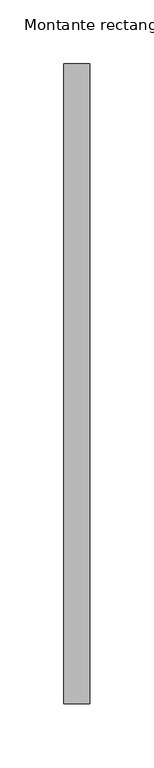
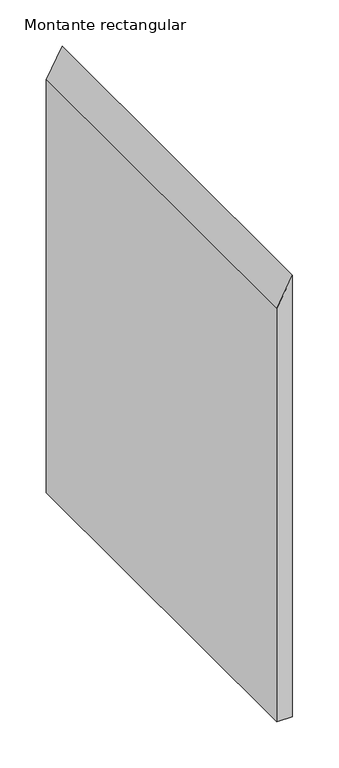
"""IFC4 building model written with IfcOpenShell, lengths in millimetres: member geometry, Montante rectangular : CIRCLES."""

from ifc_helpers import new_model, si_unit, frame, origin, place, context, project, spatial, polyline, outline, extrude, source, transform, mapped, element, save


def montante_rectangular_0c0e8d66(model_context):
    return source(origin(), model_context, "Body", "SweptSolid", [
        extrude(outline(polyline([(0.0, 0.0), (-37.4629345, -20.0), (-584.902879, -20.0), (-584.902879, 0.0), (0.0, 0.0)])), frame((0.0, -250.0, 0.0), z_axis=(0.0, 1.0, 0.0), x_axis=(0.0, 0.0, 1.0)), (0.0, 0.0, 1.0), 500.0),
    ])


if __name__ == "__main__":
    model = new_model("IFC4")
    model_context = context("Model", 3, world=origin())
    ifc_project = project(units=[si_unit("LENGTHUNIT", "METRE", prefix="MILLI")], contexts=[model_context])
    site = spatial("IfcSite", under=ifc_project)
    building = spatial("IfcBuilding", under=site)
    placement = place(None, origin())
    montante_rectangular_shape = montante_rectangular_0c0e8d66(model_context)
    element("IfcMember", 1, ObjectType="Montante rectangular : CIRCLES", at=placement, inside=building, context=model_context, shape_type="MappedRepresentation", body=[
        mapped(montante_rectangular_shape, transform((0.0, 0.0, 0.0), x_axis=(1.0, 0.0, 0.0), y_axis=(0.0, 1.0, 0.0), z_axis=(0.0, 0.0, 1.0))),
    ])
    save(model, "model.ifc")
